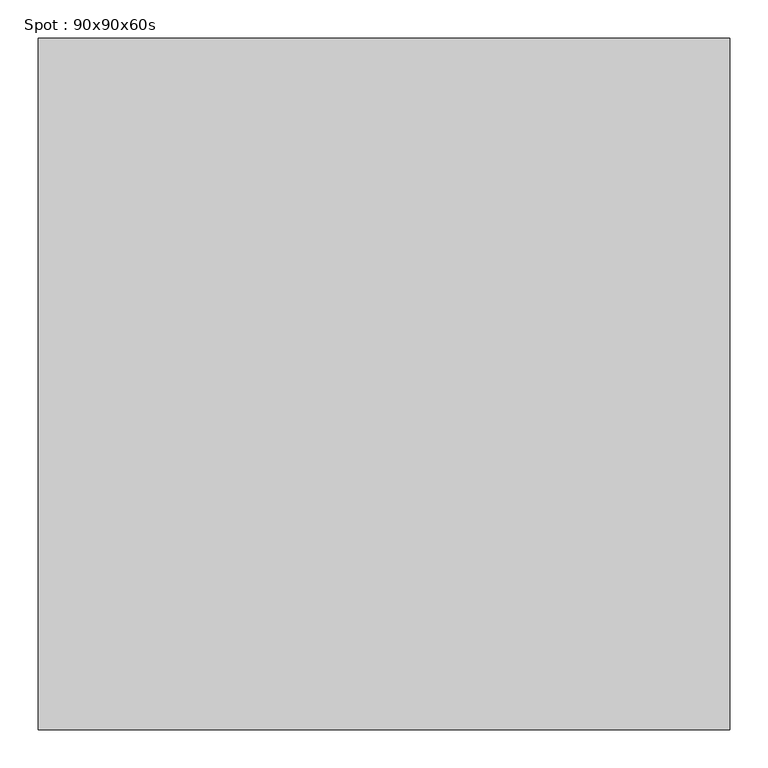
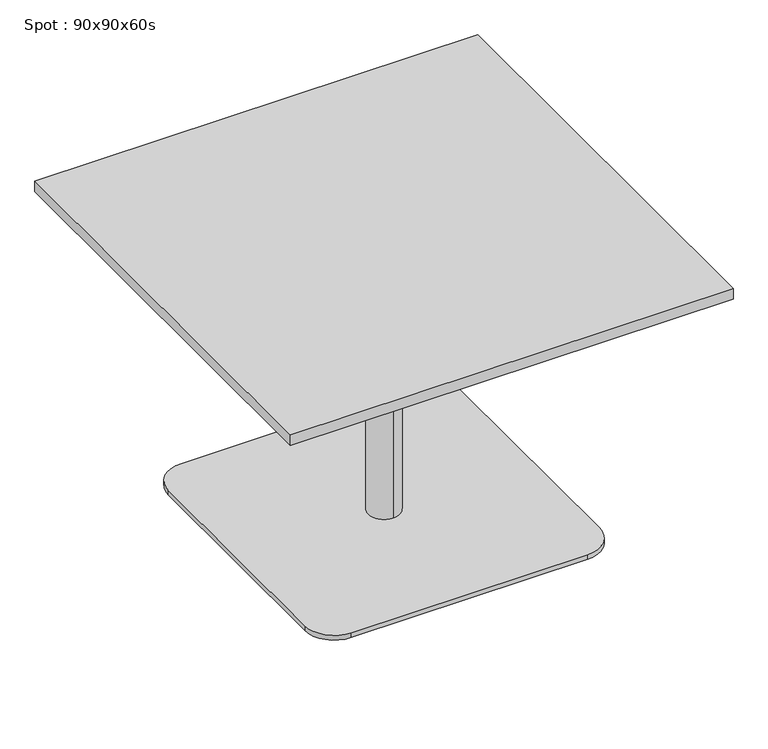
"""IFC4 building model written with IfcOpenShell, lengths in millimetres: furniture geometry, Spot : 90x90x60s."""

from ifc_helpers import new_model, si_unit, point, frame, frame_2d, origin, origin_with_axes, place, context, project, spatial, polyline, circle_curve, trimmed, segment, composite_curve, outline, extrude, source, transform, mapped, element, save
from ifc_brep_helpers import plane_surface, cylinder_surface, revolved_surface, advanced_brep


def spot_90x90x60s_4290bd5d(model_context):
    return source(origin(), model_context, "Body", "SolidModel", [
        extrude(outline(polyline([(450.0, 450.0), (450.0, -450.0), (-450.0, -450.0), (-450.0, 450.0), (450.0, 450.0)])), frame((0.0, 0.0, 578.0), z_axis=(0.0, 0.0, 1.0), x_axis=(1.0, 0.0, 0.0)), (0.0, 0.0, 1.0), 22.0),
        extrude(outline(composite_curve([segment(trimmed(circle_curve(frame_2d((240.0, 240.0)), 60.0), [point((240.0, 300.0))], [point((300.0, 240.0))], False, "CARTESIAN"), True, "CONTINUOUS"), segment(polyline([(300.0, 240.0), (300.0, -240.0)]), True, "CONTINUOUS"), segment(trimmed(circle_curve(frame_2d((240.0, -240.0)), 60.0), [point((300.0, -240.0))], [point((240.0, -300.0))], False, "CARTESIAN"), True, "CONTINUOUS"), segment(polyline([(240.0, -300.0), (-240.0, -300.0)]), True, "CONTINUOUS"), segment(trimmed(circle_curve(frame_2d((-240.0, -240.0)), 60.0), [point((-240.0, -300.0))], [point((-300.0, -240.0))], False, "CARTESIAN"), True, "CONTINUOUS"), segment(polyline([(-300.0, -240.0), (-300.0, 240.0)]), True, "CONTINUOUS"), segment(trimmed(circle_curve(frame_2d((-240.0, 240.0)), 60.0), [point((-300.0, 240.0))], [point((-240.0, 300.0))], False, "CARTESIAN"), True, "CONTINUOUS"), segment(polyline([(-240.0, 300.0), (240.0, 300.0)]), True, "CONTINUOUS")], self_intersect=False)), origin_with_axes(), (0.0, 0.0, 1.0), 10.0),
        advanced_brep(
        [(0.0, 32.0, 10.0), (0.0, -32.0, 10.0), (0.0, -32.0, 547.406916), (0.0, 32.0, 547.406916), (0.0, 0.0, 10.0), (0.0, 150.0, 578.0), (0.0, -150.0, 578.0), (0.0, 0.0, 578.0), (0.0, 150.0, 566.7213673), (0.0, -150.0, 566.7213673)],
        [
            (0, 1, circle_curve(frame((0.0, 0.0, 10.0), z_axis=(0.0, 0.0, 1.0), x_axis=(0.0, -1.0, 0.0)), 32.0)),
            (1, 2),
            (2, 3, circle_curve(frame((0.0, 0.0, 547.406916), z_axis=(0.0, 0.0, -1.0), x_axis=(0.0, -1.0, 0.0)), 32.0)),
            (3, 0),
            (1, 0, circle_curve(frame((0.0, 0.0, 10.0), z_axis=(0.0, 0.0, 1.0), x_axis=(0.0, -1.0, 0.0)), 32.0)),
            (3, 2, circle_curve(frame((0.0, 0.0, 547.406916), z_axis=(0.0, 0.0, -1.0), x_axis=(0.0, -1.0, 0.0)), 32.0)),
            (4, 1),
            (0, 4),
            (5, 6, circle_curve(frame((0.0, 0.0, 578.0), z_axis=(0.0, 0.0, 1.0), x_axis=(0.0, -1.0, 0.0)), 150.0)),
            (6, 7),
            (7, 5),
            (6, 5, circle_curve(frame((0.0, 0.0, 578.0), z_axis=(0.0, 0.0, 1.0), x_axis=(0.0, -1.0, 0.0)), 150.0)),
            (8, 9, circle_curve(frame((0.0, 0.0, 566.7213673), z_axis=(0.0, 0.0, 1.0), x_axis=(0.0, -1.0, 0.0)), 150.0)),
            (9, 6),
            (5, 8),
            (9, 8, circle_curve(frame((0.0, 0.0, 566.7213673), z_axis=(0.0, 0.0, 1.0), x_axis=(0.0, -1.0, 0.0)), 150.0)),
            (2, 9),
            (8, 3),
        ],
        [
            cylinder_surface(frame((0.0, 0.0, 940.0), z_axis=(0.0, 0.0, -1.0), x_axis=(0.0, -1.0, 0.0)), 32.0),
            plane_surface(frame((0.0, 0.0, 10.0), z_axis=(0.0, 0.0, -1.0), x_axis=(0.0, -1.0, 0.0))),
            plane_surface(frame((0.0, 0.0, 578.0), z_axis=(0.0, 0.0, 1.0), x_axis=(0.0, -1.0, 0.0))),
            cylinder_surface(frame((0.0, 0.0, 940.0), z_axis=(0.0, 0.0, -1.0), x_axis=(0.0, -1.0, 0.0)), 150.0),
            revolved_surface(polyline([(0.0, -150.0, 566.7213673), (0.0, -32.0, 547.406916)]), (0.0, 0.0, 940.0), (0.0, 0.0, -1.0)),
        ],
        [
            (0, [[1, 2, 3, 4]]),
            (0, [[5, -4, 6, -2]]),
            (1, [[7, -1, 8]]),
            (1, [[-8, -5, -7]]),
            (2, [[9, 10, 11]]),
            (2, [[12, -11, -10]]),
            (3, [[13, 14, -9, 15]]),
            (3, [[16, -15, -12, -14]]),
            (4, [[-3, 17, -13, 18]]),
            (4, [[-6, -18, -16, -17]]),
        ],
    ),
        extrude(outline(polyline([(0.0, 0.0), (-20.0, 0.0), (-20.0, 20.0), (0.0, 20.0), (0.0, 0.0)])), origin_with_axes(), (0.0, 0.0, 1.0), 10.0),
    ])


if __name__ == "__main__":
    model = new_model("IFC4")
    model_context = context("Model", 3, world=origin())
    ifc_project = project(units=[si_unit("LENGTHUNIT", "METRE", prefix="MILLI")], contexts=[model_context])
    site = spatial("IfcSite", under=ifc_project)
    building = spatial("IfcBuilding", under=site)
    placement = place(None, origin())
    spot_90x90x60s_shape = spot_90x90x60s_4290bd5d(model_context)
    element("IfcFurniture", 1, ObjectType="Spot : 90x90x60s", at=placement, inside=building, context=model_context, shape_type="MappedRepresentation", body=[
        mapped(spot_90x90x60s_shape, transform((0.0, 0.0, 0.0), x_axis=(1.0, 0.0, 0.0), y_axis=(0.0, 1.0, 0.0), z_axis=(0.0, 0.0, 1.0))),
    ])
    save(model, "model.ifc")
